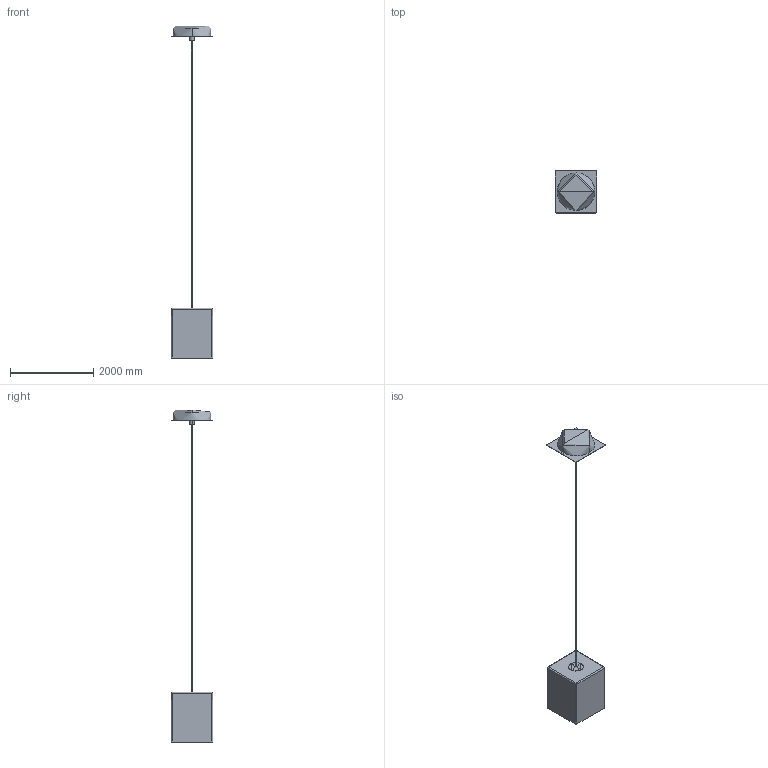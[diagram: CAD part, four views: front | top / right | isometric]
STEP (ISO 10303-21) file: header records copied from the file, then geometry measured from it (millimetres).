
FILE_DESCRIPTION(/* description */ (''),/* implementation_level */ '2;1');
FILE_NAME(/* name */ '11147',/* time_stamp */ '2022-01-18T15:05:26+01:00',/* author */ (''),/* organization */ (''),/* preprocessor_version */ 'ST-DEVELOPER v16.5',/* originating_system */ '',/* authorisation */ '');
FILE_SCHEMA (('CONFIG_CONTROL_DESIGN'));
Length unit declared in the file: centimetre
Products named in the file (1): Document
Bounding box: 1000 x 1000 x 7976.94 mm (x, y, z)
Volume: 425306952.7 mm3; surface area: 15905209.3 mm2
Topology: 10 solids, 10 shells, 71 faces, 160 edges, 103 vertices
Faces by surface type: plane 33, cylinder 30, bspline 8
Entity records: 2178 total; most frequent: CARTESIAN_POINT 999, ORIENTED_EDGE 302, EDGE_CURVE 151, VERTEX_POINT 103, EDGE_LOOP 78, B_SPLINE_CURVE_WITH_KNOTS 76, DIRECTION 74, ADVANCED_FACE 71
